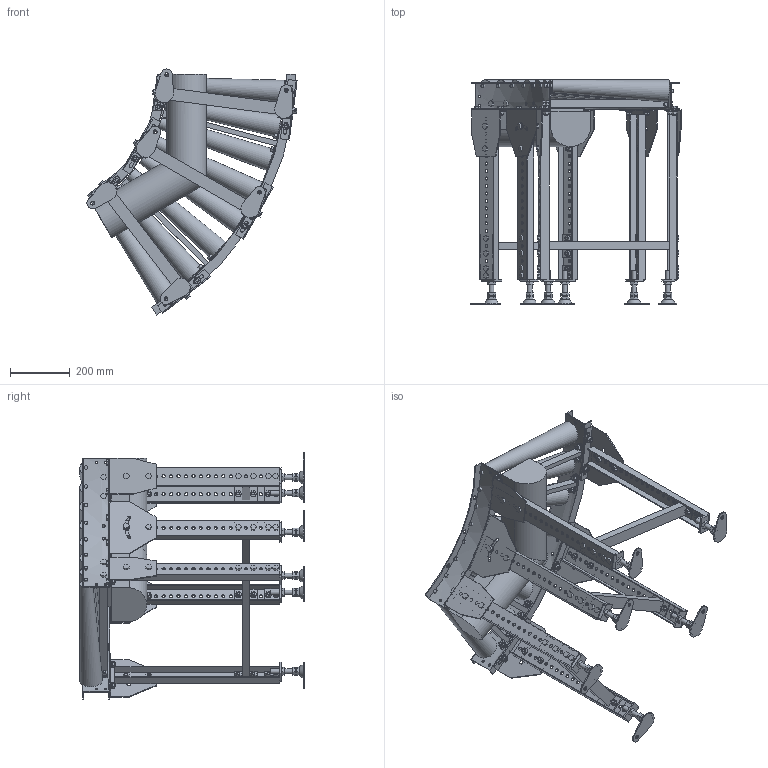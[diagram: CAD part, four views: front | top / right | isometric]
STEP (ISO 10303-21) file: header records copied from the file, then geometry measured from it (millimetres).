
FILE_DESCRIPTION( (''), '2;1');
FILE_NAME ('WEB-MCD-50-400-75-60°-C5.stp','2025-06-26T16:56:20',(''),(''),'spGate 20.6.2 (****-****-****-****)','','');
FILE_SCHEMA (('AUTOMOTIVE_DESIGN'));
Length unit declared in the file: millimetre
Products named in the file (47): WEB-MCD-50-400-75-60_-C5; TEMP_X_T-prt0; TEMP_X_T-prt1; TEMP_X_T-prt2; TEMP_X_T-prt3; TEMP_X_T-prt4; TEMP_X_T-prt5; TEMP_X_T-prt6; TEMP_X_T-prt7; TEMP_X_T-prt8; TEMP_X_T-prt9; TEMP_X_T-prt10; TEMP_X_T-prt11; TEMP_X_T-prt12; TEMP_X_T-prt13; TEMP_X_T-prt14; TEMP_X_T-prt15; TEMP_X_T-prt16; TEMP_X_T-prt17; TEMP_X_T-prt18; TEMP_X_T-prt19; TEMP_X_T-prt20; TEMP_X_T-prt21; TEMP_X_T-prt22; TEMP_X_T-prt23; TEMP_X_T-prt24; TEMP_X_T-prt25; TEMP_X_T-prt26; TEMP_X_T-prt27; TEMP_X_T-prt28; TEMP_X_T-prt29; TEMP_X_T-prt30; TEMP_X_T-prt31; TEMP_X_T-prt32; TEMP_X_T-prt33; TEMP_X_T-prt34; TEMP_X_T-prt35; TEMP_X_T-prt36; TEMP_X_T-prt37; TEMP_X_T-prt38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
Assembly tree (46 placements, depth 2):
  WEB-MCD-50-400-75-60_-C5
    TEMP_X_T-prt0
    TEMP_X_T-prt1
    TEMP_X_T-prt2
    TEMP_X_T-prt3
    TEMP_X_T-prt4
    TEMP_X_T-prt5
    TEMP_X_T-prt6
    TEMP_X_T-prt7
    TEMP_X_T-prt8
    TEMP_X_T-prt9
    TEMP_X_T-prt10
    TEMP_X_T-prt11
    TEMP_X_T-prt12
    TEMP_X_T-prt13
    TEMP_X_T-prt14
    TEMP_X_T-prt15
    TEMP_X_T-prt16
    TEMP_X_T-prt17
    TEMP_X_T-prt18
    TEMP_X_T-prt19
    TEMP_X_T-prt20
    TEMP_X_T-prt21
    TEMP_X_T-prt22
    TEMP_X_T-prt23
    TEMP_X_T-prt24
    TEMP_X_T-prt25
    TEMP_X_T-prt26
    TEMP_X_T-prt27
    TEMP_X_T-prt28
    TEMP_X_T-prt29
    TEMP_X_T-prt30
    TEMP_X_T-prt31
    TEMP_X_T-prt32
    TEMP_X_T-prt33
    TEMP_X_T-prt34
    TEMP_X_T-prt35
    TEMP_X_T-prt36
    TEMP_X_T-prt37
    TEMP_X_T-prt38
    TEMP_X_T-prt39
    TEMP_X_T-prt40
    TEMP_X_T-prt41
    TEMP_X_T-prt42
    TEMP_X_T-prt43
    TEMP_X_T-prt44
    TEMP_X_T-prt45
Bounding box: 702.55 x 749.97 x 822.16 mm (x, y, z)
Volume: 23205349.2 mm3; surface area: 2946496 mm2
Topology: 46 solids, 78 shells, 2770 faces, 6749 edges, 4340 vertices
Faces by surface type: plane 2340, cylinder 416, bspline 14
Full cylindrical faces by diameter (mm): 8.5 x8, 10 x72, 10.5 x138, 11 x6, 12 x16, 13 x6, 14 x6, 16 x6, 18.4 x48, 18.5 x12, 21 x24
Entity records: 140435 total; most frequent: CARTESIAN_POINT 17095, DIRECTION 14056, ORIENTED_EDGE 13498, COLOUR_RGB 9565, PRESENTATION_STYLE_ASSIGNMENT 9565, STYLED_ITEM 9565, EDGE_CURVE 6749, DRAUGHTING_PRE_DEFINED_CURVE_FONT 6749
